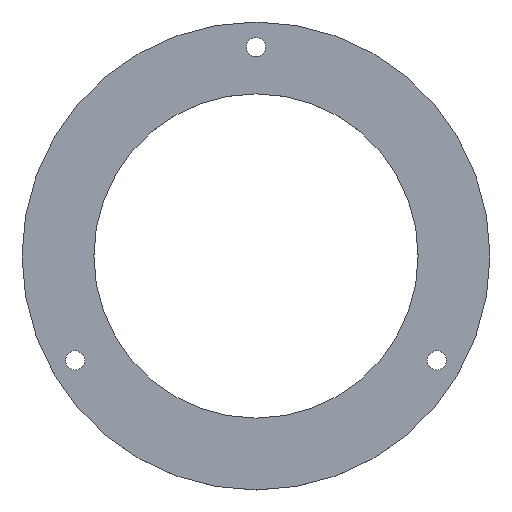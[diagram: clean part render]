
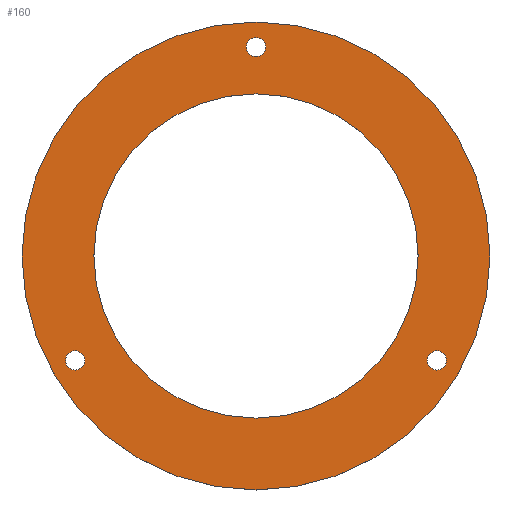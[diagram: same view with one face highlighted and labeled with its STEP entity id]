
A CAD part, top view. The second image highlights one B-rep face of the part: STEP entity #160.
In plain terms, the highlighted planar face has unit normal (0, 0, 1).
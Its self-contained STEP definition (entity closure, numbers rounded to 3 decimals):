
#22 = VERTEX_POINT('',#23);
#23 = CARTESIAN_POINT('',(28.,0.,2.6));
#32 = CYLINDRICAL_SURFACE('',#33,28.);
#33 = AXIS2_PLACEMENT_3D('',#34,#35,#36);
#34 = CARTESIAN_POINT('',(0.,0.,2.6));
#35 = DIRECTION('',(-0.,0.,1.));
#36 = DIRECTION('',(1.,0.,0.));
#79 = EDGE_CURVE('',#22,#22,#80,.T.);
#80 = SURFACE_CURVE('',#81,(#86,#93),.PCURVE_S1.);
#81 = CIRCLE('',#82,28.);
#82 = AXIS2_PLACEMENT_3D('',#83,#84,#85);
#83 = CARTESIAN_POINT('',(0.,0.,2.6));
#84 = DIRECTION('',(0.,0.,-1.));
#85 = DIRECTION('',(1.,0.,0.));
#86 = PCURVE('',#32,#87);
#87 = DEFINITIONAL_REPRESENTATION('',(#88),#92);
#88 = LINE('',#89,#90);
#89 = CARTESIAN_POINT('',(-0.,0.));
#90 = VECTOR('',#91,1.);
#91 = DIRECTION('',(-1.,0.));
#92 = ( GEOMETRIC_REPRESENTATION_CONTEXT(2) 
PARAMETRIC_REPRESENTATION_CONTEXT() REPRESENTATION_CONTEXT('2D SPACE',''
  ) );
#93 = PCURVE('',#94,#99);
#94 = PLANE('',#95);
#95 = AXIS2_PLACEMENT_3D('',#96,#97,#98);
#96 = CARTESIAN_POINT('',(0.,0.,2.6));
#97 = DIRECTION('',(0.,0.,-1.));
#98 = DIRECTION('',(1.,0.,0.));
#99 = DEFINITIONAL_REPRESENTATION('',(#100),#104);
#100 = CIRCLE('',#101,28.);
#101 = AXIS2_PLACEMENT_2D('',#102,#103);
#102 = CARTESIAN_POINT('',(0.,0.));
#103 = DIRECTION('',(1.,0.));
#104 = ( GEOMETRIC_REPRESENTATION_CONTEXT(2) 
PARAMETRIC_REPRESENTATION_CONTEXT() REPRESENTATION_CONTEXT('2D SPACE',''
  ) );
#160 = ADVANCED_FACE('',(#161,#164,#195,#226,#257),#94,.F.);
#161 = FACE_BOUND('',#162,.F.);
#162 = EDGE_LOOP('',(#163));
#163 = ORIENTED_EDGE('',*,*,#79,.T.);
#164 = FACE_BOUND('',#165,.F.);
#165 = EDGE_LOOP('',(#166));
#166 = ORIENTED_EDGE('',*,*,#167,.F.);
#167 = EDGE_CURVE('',#168,#168,#170,.T.);
#168 = VERTEX_POINT('',#169);
#169 = CARTESIAN_POINT('',(1.15,25.,2.6));
#170 = SURFACE_CURVE('',#171,(#176,#183),.PCURVE_S1.);
#171 = CIRCLE('',#172,1.15);
#172 = AXIS2_PLACEMENT_3D('',#173,#174,#175);
#173 = CARTESIAN_POINT('',(0.,25.,2.6));
#174 = DIRECTION('',(0.,0.,-1.));
#175 = DIRECTION('',(1.,0.,0.));
#176 = PCURVE('',#94,#177);
#177 = DEFINITIONAL_REPRESENTATION('',(#178),#182);
#178 = CIRCLE('',#179,1.15);
#179 = AXIS2_PLACEMENT_2D('',#180,#181);
#180 = CARTESIAN_POINT('',(0.,-25.));
#181 = DIRECTION('',(1.,0.));
#182 = ( GEOMETRIC_REPRESENTATION_CONTEXT(2) 
PARAMETRIC_REPRESENTATION_CONTEXT() REPRESENTATION_CONTEXT('2D SPACE',''
  ) );
#183 = PCURVE('',#184,#189);
#184 = CYLINDRICAL_SURFACE('',#185,1.15);
#185 = AXIS2_PLACEMENT_3D('',#186,#187,#188);
#186 = CARTESIAN_POINT('',(0.,25.,2.6));
#187 = DIRECTION('',(-0.,0.,1.));
#188 = DIRECTION('',(1.,0.,0.));
#189 = DEFINITIONAL_REPRESENTATION('',(#190),#194);
#190 = LINE('',#191,#192);
#191 = CARTESIAN_POINT('',(-0.,0.));
#192 = VECTOR('',#193,1.);
#193 = DIRECTION('',(-1.,0.));
#194 = ( GEOMETRIC_REPRESENTATION_CONTEXT(2) 
PARAMETRIC_REPRESENTATION_CONTEXT() REPRESENTATION_CONTEXT('2D SPACE',''
  ) );
#195 = FACE_BOUND('',#196,.F.);
#196 = EDGE_LOOP('',(#197));
#197 = ORIENTED_EDGE('',*,*,#198,.F.);
#198 = EDGE_CURVE('',#199,#199,#201,.T.);
#199 = VERTEX_POINT('',#200);
#200 = CARTESIAN_POINT('',(-20.501,-12.5,2.6));
#201 = SURFACE_CURVE('',#202,(#207,#214),.PCURVE_S1.);
#202 = CIRCLE('',#203,1.15);
#203 = AXIS2_PLACEMENT_3D('',#204,#205,#206);
#204 = CARTESIAN_POINT('',(-21.651,-12.5,2.6));
#205 = DIRECTION('',(0.,0.,-1.));
#206 = DIRECTION('',(1.,0.,0.));
#207 = PCURVE('',#94,#208);
#208 = DEFINITIONAL_REPRESENTATION('',(#209),#213);
#209 = CIRCLE('',#210,1.15);
#210 = AXIS2_PLACEMENT_2D('',#211,#212);
#211 = CARTESIAN_POINT('',(-21.651,12.5));
#212 = DIRECTION('',(1.,0.));
#213 = ( GEOMETRIC_REPRESENTATION_CONTEXT(2) 
PARAMETRIC_REPRESENTATION_CONTEXT() REPRESENTATION_CONTEXT('2D SPACE',''
  ) );
#214 = PCURVE('',#215,#220);
#215 = CYLINDRICAL_SURFACE('',#216,1.15);
#216 = AXIS2_PLACEMENT_3D('',#217,#218,#219);
#217 = CARTESIAN_POINT('',(-21.651,-12.5,2.6));
#218 = DIRECTION('',(-0.,0.,1.));
#219 = DIRECTION('',(1.,0.,0.));
#220 = DEFINITIONAL_REPRESENTATION('',(#221),#225);
#221 = LINE('',#222,#223);
#222 = CARTESIAN_POINT('',(-0.,0.));
#223 = VECTOR('',#224,1.);
#224 = DIRECTION('',(-1.,0.));
#225 = ( GEOMETRIC_REPRESENTATION_CONTEXT(2) 
PARAMETRIC_REPRESENTATION_CONTEXT() REPRESENTATION_CONTEXT('2D SPACE',''
  ) );
#226 = FACE_BOUND('',#227,.F.);
#227 = EDGE_LOOP('',(#228));
#228 = ORIENTED_EDGE('',*,*,#229,.F.);
#229 = EDGE_CURVE('',#230,#230,#232,.T.);
#230 = VERTEX_POINT('',#231);
#231 = CARTESIAN_POINT('',(19.4,0.,2.6));
#232 = SURFACE_CURVE('',#233,(#238,#245),.PCURVE_S1.);
#233 = CIRCLE('',#234,19.4);
#234 = AXIS2_PLACEMENT_3D('',#235,#236,#237);
#235 = CARTESIAN_POINT('',(0.,0.,2.6));
#236 = DIRECTION('',(0.,0.,-1.));
#237 = DIRECTION('',(1.,0.,0.));
#238 = PCURVE('',#94,#239);
#239 = DEFINITIONAL_REPRESENTATION('',(#240),#244);
#240 = CIRCLE('',#241,19.4);
#241 = AXIS2_PLACEMENT_2D('',#242,#243);
#242 = CARTESIAN_POINT('',(0.,0.));
#243 = DIRECTION('',(1.,0.));
#244 = ( GEOMETRIC_REPRESENTATION_CONTEXT(2) 
PARAMETRIC_REPRESENTATION_CONTEXT() REPRESENTATION_CONTEXT('2D SPACE',''
  ) );
#245 = PCURVE('',#246,#251);
#246 = CYLINDRICAL_SURFACE('',#247,19.4);
#247 = AXIS2_PLACEMENT_3D('',#248,#249,#250);
#248 = CARTESIAN_POINT('',(0.,0.,2.6));
#249 = DIRECTION('',(-0.,0.,1.));
#250 = DIRECTION('',(1.,0.,0.));
#251 = DEFINITIONAL_REPRESENTATION('',(#252),#256);
#252 = LINE('',#253,#254);
#253 = CARTESIAN_POINT('',(-0.,0.));
#254 = VECTOR('',#255,1.);
#255 = DIRECTION('',(-1.,0.));
#256 = ( GEOMETRIC_REPRESENTATION_CONTEXT(2) 
PARAMETRIC_REPRESENTATION_CONTEXT() REPRESENTATION_CONTEXT('2D SPACE',''
  ) );
#257 = FACE_BOUND('',#258,.F.);
#258 = EDGE_LOOP('',(#259));
#259 = ORIENTED_EDGE('',*,*,#260,.F.);
#260 = EDGE_CURVE('',#261,#261,#263,.T.);
#261 = VERTEX_POINT('',#262);
#262 = CARTESIAN_POINT('',(22.801,-12.5,2.6));
#263 = SURFACE_CURVE('',#264,(#269,#276),.PCURVE_S1.);
#264 = CIRCLE('',#265,1.15);
#265 = AXIS2_PLACEMENT_3D('',#266,#267,#268);
#266 = CARTESIAN_POINT('',(21.651,-12.5,2.6));
#267 = DIRECTION('',(0.,0.,-1.));
#268 = DIRECTION('',(1.,0.,0.));
#269 = PCURVE('',#94,#270);
#270 = DEFINITIONAL_REPRESENTATION('',(#271),#275);
#271 = CIRCLE('',#272,1.15);
#272 = AXIS2_PLACEMENT_2D('',#273,#274);
#273 = CARTESIAN_POINT('',(21.651,12.5));
#274 = DIRECTION('',(1.,0.));
#275 = ( GEOMETRIC_REPRESENTATION_CONTEXT(2) 
PARAMETRIC_REPRESENTATION_CONTEXT() REPRESENTATION_CONTEXT('2D SPACE',''
  ) );
#276 = PCURVE('',#277,#282);
#277 = CYLINDRICAL_SURFACE('',#278,1.15);
#278 = AXIS2_PLACEMENT_3D('',#279,#280,#281);
#279 = CARTESIAN_POINT('',(21.651,-12.5,2.6));
#280 = DIRECTION('',(-0.,0.,1.));
#281 = DIRECTION('',(1.,0.,0.));
#282 = DEFINITIONAL_REPRESENTATION('',(#283),#287);
#283 = LINE('',#284,#285);
#284 = CARTESIAN_POINT('',(-0.,0.));
#285 = VECTOR('',#286,1.);
#286 = DIRECTION('',(-1.,0.));
#287 = ( GEOMETRIC_REPRESENTATION_CONTEXT(2) 
PARAMETRIC_REPRESENTATION_CONTEXT() REPRESENTATION_CONTEXT('2D SPACE',''
  ) );
